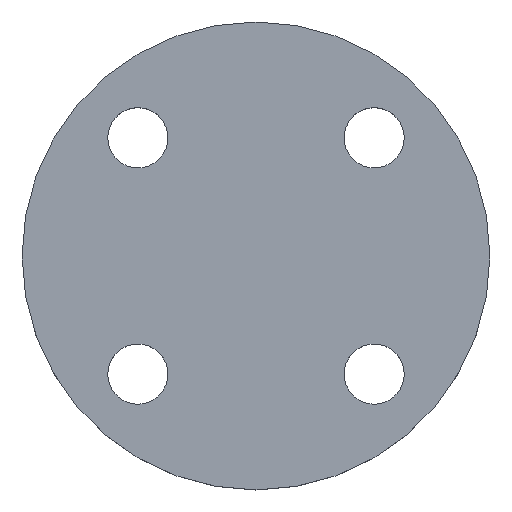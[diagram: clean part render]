
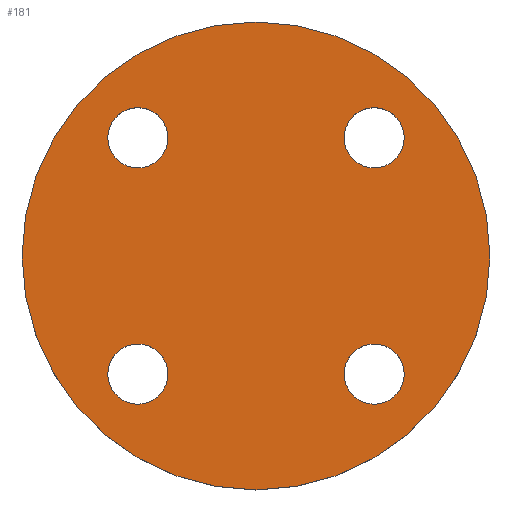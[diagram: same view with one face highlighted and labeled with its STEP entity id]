
A CAD part, top view. The second image highlights one B-rep face of the part: STEP entity #181.
In plain terms, the highlighted planar face has unit normal (0, 0, 1).
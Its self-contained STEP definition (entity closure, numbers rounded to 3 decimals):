
#12 = VERTEX_POINT ( 'NONE', #71 ) ;
#29 = ORIENTED_EDGE ( 'NONE', *, *, #417, .T. ) ;
#30 = EDGE_CURVE ( 'NONE', #631, #131, #465, .T. ) ;
#33 = AXIS2_PLACEMENT_3D ( 'NONE', #105, #315, #523 ) ;
#34 = DIRECTION ( 'NONE',  ( 0., 0., -1. ) ) ;
#37 = ORIENTED_EDGE ( 'NONE', *, *, #82, .T. ) ;
#43 = FACE_BOUND ( 'NONE', #386, .T. ) ;
#50 = DIRECTION ( 'NONE',  ( 0., 0., -1. ) ) ;
#51 = CARTESIAN_POINT ( 'NONE',  ( 26.355, -35.355, 0. ) ) ;
#55 = CARTESIAN_POINT ( 'NONE',  ( -44.355, -35.355, 0. ) ) ;
#65 = CARTESIAN_POINT ( 'NONE',  ( -35.355, 35.355, 0. ) ) ;
#71 = CARTESIAN_POINT ( 'NONE',  ( 70., 0., 0. ) ) ;
#82 = EDGE_CURVE ( 'NONE', #129, #12, #160, .T. ) ;
#105 = CARTESIAN_POINT ( 'NONE',  ( -35.355, -35.355, 0. ) ) ;
#118 = DIRECTION ( 'NONE',  ( 0., 0., -1. ) ) ;
#129 = VERTEX_POINT ( 'NONE', #446 ) ;
#131 = VERTEX_POINT ( 'NONE', #663 ) ;
#135 = AXIS2_PLACEMENT_3D ( 'NONE', #670, #207, #404 ) ;
#137 = CARTESIAN_POINT ( 'NONE',  ( 0., 0., 0. ) ) ;
#144 = DIRECTION ( 'NONE',  ( 1., 0., 0. ) ) ;
#145 = AXIS2_PLACEMENT_3D ( 'NONE', #65, #276, #476 ) ;
#147 = AXIS2_PLACEMENT_3D ( 'NONE', #517, #50, #262 ) ;
#149 = DIRECTION ( 'NONE',  ( 0., 0., 1. ) ) ;
#156 = CIRCLE ( 'NONE', #543, 9. ) ;
#160 = CIRCLE ( 'NONE', #546, 70. ) ;
#161 = EDGE_LOOP ( 'NONE', ( #463, #478 ) ) ;
#164 = EDGE_LOOP ( 'NONE', ( #173, #215 ) ) ;
#171 = DIRECTION ( 'NONE',  ( 0., 0., -1. ) ) ;
#173 = ORIENTED_EDGE ( 'NONE', *, *, #327, .T. ) ;
#174 = DIRECTION ( 'NONE',  ( 0., 0., -1. ) ) ;
#181 = ADVANCED_FACE ( 'NONE', ( #505, #43, #253, #448, #665 ), #200, .T. ) ;
#189 = VERTEX_POINT ( 'NONE', #206 ) ;
#200 = PLANE ( 'NONE',  #504 ) ;
#201 = VERTEX_POINT ( 'NONE', #357 ) ;
#206 = CARTESIAN_POINT ( 'NONE',  ( 44.355, 35.355, 0. ) ) ;
#207 = DIRECTION ( 'NONE',  ( 0., 0., -1. ) ) ;
#215 = ORIENTED_EDGE ( 'NONE', *, *, #223, .T. ) ;
#219 = CARTESIAN_POINT ( 'NONE',  ( -35.355, -35.355, 0. ) ) ;
#220 = ORIENTED_EDGE ( 'NONE', *, *, #239, .T. ) ;
#223 = EDGE_CURVE ( 'NONE', #603, #488, #438, .T. ) ;
#239 = EDGE_CURVE ( 'NONE', #201, #240, #325, .T. ) ;
#240 = VERTEX_POINT ( 'NONE', #55 ) ;
#242 = DIRECTION ( 'NONE',  ( -1., 0., 0. ) ) ;
#247 = CIRCLE ( 'NONE', #626, 9. ) ;
#253 = FACE_BOUND ( 'NONE', #164, .T. ) ;
#262 = DIRECTION ( 'NONE',  ( -1., 0., 0. ) ) ;
#276 = DIRECTION ( 'NONE',  ( 0., 0., -1. ) ) ;
#303 = EDGE_LOOP ( 'NONE', ( #29, #37 ) ) ;
#315 = DIRECTION ( 'NONE',  ( 0., 0., -1. ) ) ;
#321 = AXIS2_PLACEMENT_3D ( 'NONE', #642, #174, #375 ) ;
#325 = CIRCLE ( 'NONE', #33, 9. ) ;
#326 = DIRECTION ( 'NONE',  ( -1., 0., 0. ) ) ;
#327 = EDGE_CURVE ( 'NONE', #488, #603, #437, .T. ) ;
#343 = DIRECTION ( 'NONE',  ( 0., 0., 1. ) ) ;
#353 = DIRECTION ( 'NONE',  ( 1., 0., 0. ) ) ;
#356 = EDGE_CURVE ( 'NONE', #189, #447, #613, .T. ) ;
#357 = CARTESIAN_POINT ( 'NONE',  ( -26.355, -35.355, 0. ) ) ;
#360 = AXIS2_PLACEMENT_3D ( 'NONE', #494, #34, #242 ) ;
#372 = DIRECTION ( 'NONE',  ( -1., 0., 0. ) ) ;
#375 = DIRECTION ( 'NONE',  ( -1., 0., 0. ) ) ;
#385 = EDGE_LOOP ( 'NONE', ( #559, #531 ) ) ;
#386 = EDGE_LOOP ( 'NONE', ( #220, #507 ) ) ;
#396 = CARTESIAN_POINT ( 'NONE',  ( 0., 0., 0. ) ) ;
#404 = DIRECTION ( 'NONE',  ( -1., 0., 0. ) ) ;
#417 = EDGE_CURVE ( 'NONE', #12, #129, #551, .T. ) ;
#426 = CIRCLE ( 'NONE', #135, 9. ) ;
#437 = CIRCLE ( 'NONE', #145, 9. ) ;
#438 = CIRCLE ( 'NONE', #147, 9. ) ;
#446 = CARTESIAN_POINT ( 'NONE',  ( -70., 0., 0. ) ) ;
#447 = VERTEX_POINT ( 'NONE', #510 ) ;
#448 = FACE_BOUND ( 'NONE', #385, .T. ) ;
#454 = EDGE_CURVE ( 'NONE', #447, #189, #426, .T. ) ;
#463 = ORIENTED_EDGE ( 'NONE', *, *, #508, .T. ) ;
#465 = CIRCLE ( 'NONE', #360, 9. ) ;
#476 = DIRECTION ( 'NONE',  ( -1., 0., 0. ) ) ;
#478 = ORIENTED_EDGE ( 'NONE', *, *, #30, .T. ) ;
#488 = VERTEX_POINT ( 'NONE', #632 ) ;
#494 = CARTESIAN_POINT ( 'NONE',  ( 35.355, -35.355, 0. ) ) ;
#504 = AXIS2_PLACEMENT_3D ( 'NONE', #396, #612, #144 ) ;
#505 = FACE_BOUND ( 'NONE', #161, .T. ) ;
#506 = EDGE_CURVE ( 'NONE', #240, #201, #156, .T. ) ;
#507 = ORIENTED_EDGE ( 'NONE', *, *, #506, .T. ) ;
#508 = EDGE_CURVE ( 'NONE', #131, #631, #247, .T. ) ;
#510 = CARTESIAN_POINT ( 'NONE',  ( 26.355, 35.355, 0. ) ) ;
#517 = CARTESIAN_POINT ( 'NONE',  ( -35.355, 35.355, 0. ) ) ;
#523 = DIRECTION ( 'NONE',  ( -1., 0., 0. ) ) ;
#531 = ORIENTED_EDGE ( 'NONE', *, *, #454, .T. ) ;
#543 = AXIS2_PLACEMENT_3D ( 'NONE', #219, #171, #372 ) ;
#546 = AXIS2_PLACEMENT_3D ( 'NONE', #137, #343, #556 ) ;
#551 = CIRCLE ( 'NONE', #644, 70. ) ;
#556 = DIRECTION ( 'NONE',  ( 1., 0., 0. ) ) ;
#559 = ORIENTED_EDGE ( 'NONE', *, *, #356, .T. ) ;
#586 = CARTESIAN_POINT ( 'NONE',  ( 35.355, -35.355, 0. ) ) ;
#603 = VERTEX_POINT ( 'NONE', #653 ) ;
#612 = DIRECTION ( 'NONE',  ( 0., 0., 1. ) ) ;
#613 = CIRCLE ( 'NONE', #321, 9. ) ;
#618 = CARTESIAN_POINT ( 'NONE',  ( 0., 0., 0. ) ) ;
#626 = AXIS2_PLACEMENT_3D ( 'NONE', #586, #118, #326 ) ;
#631 = VERTEX_POINT ( 'NONE', #51 ) ;
#632 = CARTESIAN_POINT ( 'NONE',  ( -26.355, 35.355, 0. ) ) ;
#642 = CARTESIAN_POINT ( 'NONE',  ( 35.355, 35.355, 0. ) ) ;
#644 = AXIS2_PLACEMENT_3D ( 'NONE', #618, #149, #353 ) ;
#653 = CARTESIAN_POINT ( 'NONE',  ( -44.355, 35.355, 0. ) ) ;
#663 = CARTESIAN_POINT ( 'NONE',  ( 44.355, -35.355, 0. ) ) ;
#665 = FACE_OUTER_BOUND ( 'NONE', #303, .T. ) ;
#670 = CARTESIAN_POINT ( 'NONE',  ( 35.355, 35.355, 0. ) ) ;
